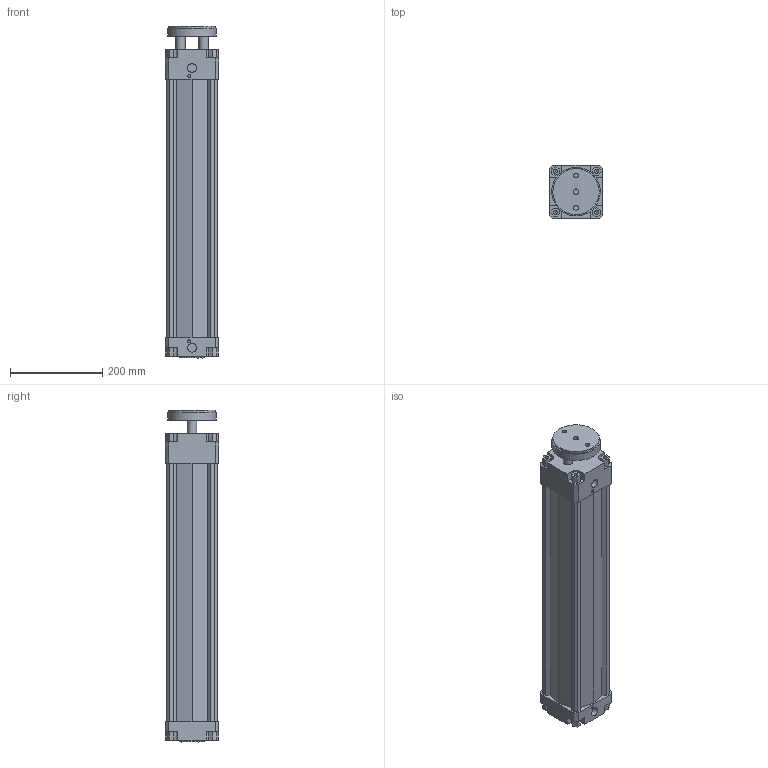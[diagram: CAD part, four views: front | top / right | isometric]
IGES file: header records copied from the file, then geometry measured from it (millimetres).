
Global section: file name: 134#_100_0500_01; native system: Autodesk Inventor 2014; preprocessor: unknown; author: A. Manieri; date: 20161006.165353; units: millimetre
Bounding box: 115 x 115 x 718 mm (x, y, z)
Volume: 3662545.8 mm3; surface area: 676676.6 mm2
Topology: 2 solids, 2 shells, 180 faces, 491 edges, 335 vertices
Faces by surface type: bspline 180
